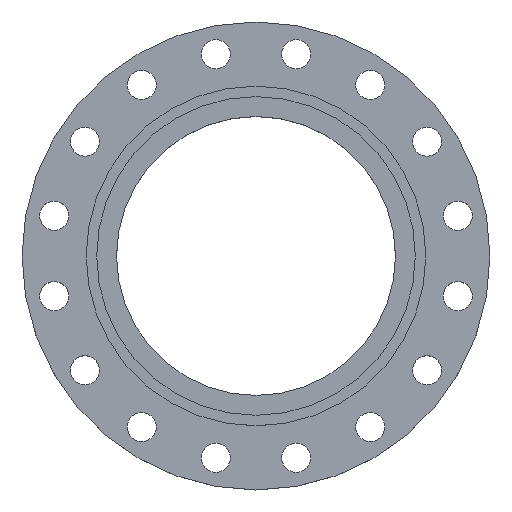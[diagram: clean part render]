
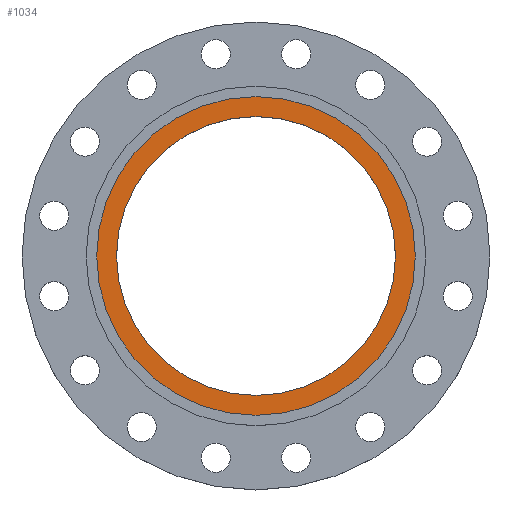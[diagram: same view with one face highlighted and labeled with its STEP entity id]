
A CAD part, top view. The second image highlights one B-rep face of the part: STEP entity #1034.
In plain terms, the highlighted planar face has unit normal (0, 0, 1).
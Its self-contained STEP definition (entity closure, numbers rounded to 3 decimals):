
#33 = EDGE_CURVE ( 'NONE', #604, #1310, #345, .T. ) ;
#68 = EDGE_CURVE ( 'NONE', #632, #973, #1183, .T. ) ;
#208 = CIRCLE ( 'NONE', #1209, 172.835 ) ;
#229 = DIRECTION ( 'NONE',  ( 1., 0., 0. ) ) ;
#230 = DIRECTION ( 'NONE',  ( 0., 0., 1. ) ) ;
#231 = CARTESIAN_POINT ( 'NONE',  ( 0., 0., -5.5 ) ) ;
#247 = DIRECTION ( 'NONE',  ( -1., 0., 0. ) ) ;
#248 = DIRECTION ( 'NONE',  ( 0., 0., -1. ) ) ;
#251 = CARTESIAN_POINT ( 'NONE',  ( 0., 0., -5.5 ) ) ;
#345 = CIRCLE ( 'NONE', #346, 197.5 ) ;
#346 = AXIS2_PLACEMENT_3D ( 'NONE', #251, #248, #247 ) ;
#397 = AXIS2_PLACEMENT_3D ( 'NONE', #231, #230, #229 ) ;
#567 = AXIS2_PLACEMENT_3D ( 'NONE', #1281, #1280, #1279 ) ;
#604 = VERTEX_POINT ( 'NONE', #1678 ) ;
#632 = VERTEX_POINT ( 'NONE', #1672 ) ;
#853 = CARTESIAN_POINT ( 'NONE',  ( -197.5, 0., -5.5 ) ) ;
#973 = VERTEX_POINT ( 'NONE', #1370 ) ;
#1034 = ADVANCED_FACE ( 'NONE', ( #1337, #1335 ), #1334, .T. ) ;
#1066 = ORIENTED_EDGE ( 'NONE', *, *, #1088, .F. ) ;
#1080 = EDGE_CURVE ( 'NONE', #1310, #604, #1593, .T. ) ;
#1083 = ORIENTED_EDGE ( 'NONE', *, *, #68, .F. ) ;
#1084 = ORIENTED_EDGE ( 'NONE', *, *, #1080, .F. ) ;
#1085 = ORIENTED_EDGE ( 'NONE', *, *, #33, .F. ) ;
#1088 = EDGE_CURVE ( 'NONE', #973, #632, #208, .T. ) ;
#1110 = EDGE_LOOP ( 'NONE', ( #1084, #1085 ) ) ;
#1143 = EDGE_LOOP ( 'NONE', ( #1066, #1083 ) ) ;
#1183 = CIRCLE ( 'NONE', #397, 172.835 ) ;
#1189 = AXIS2_PLACEMENT_3D ( 'NONE', #1333, #1332, #1330 ) ;
#1209 = AXIS2_PLACEMENT_3D ( 'NONE', #1277, #1275, #1274 ) ;
#1274 = DIRECTION ( 'NONE',  ( 1., 0., 0. ) ) ;
#1275 = DIRECTION ( 'NONE',  ( 0., 0., 1. ) ) ;
#1277 = CARTESIAN_POINT ( 'NONE',  ( 0., 0., -5.5 ) ) ;
#1279 = DIRECTION ( 'NONE',  ( -1., 0., 0. ) ) ;
#1280 = DIRECTION ( 'NONE',  ( 0., 0., -1. ) ) ;
#1281 = CARTESIAN_POINT ( 'NONE',  ( 0., 0., -5.5 ) ) ;
#1310 = VERTEX_POINT ( 'NONE', #853 ) ;
#1330 = DIRECTION ( 'NONE',  ( 1., 0., 0. ) ) ;
#1332 = DIRECTION ( 'NONE',  ( 0., 0., 1. ) ) ;
#1333 = CARTESIAN_POINT ( 'NONE',  ( 197.5, 0., -5.5 ) ) ;
#1334 = PLANE ( 'NONE',  #1189 ) ;
#1335 = FACE_OUTER_BOUND ( 'NONE', #1110, .T. ) ;
#1337 = FACE_BOUND ( 'NONE', #1143, .T. ) ;
#1370 = CARTESIAN_POINT ( 'NONE',  ( 172.835, 0., -5.5 ) ) ;
#1593 = CIRCLE ( 'NONE', #567, 197.5 ) ;
#1672 = CARTESIAN_POINT ( 'NONE',  ( -172.835, 0., -5.5 ) ) ;
#1678 = CARTESIAN_POINT ( 'NONE',  ( 197.5, 0., -5.5 ) ) ;
